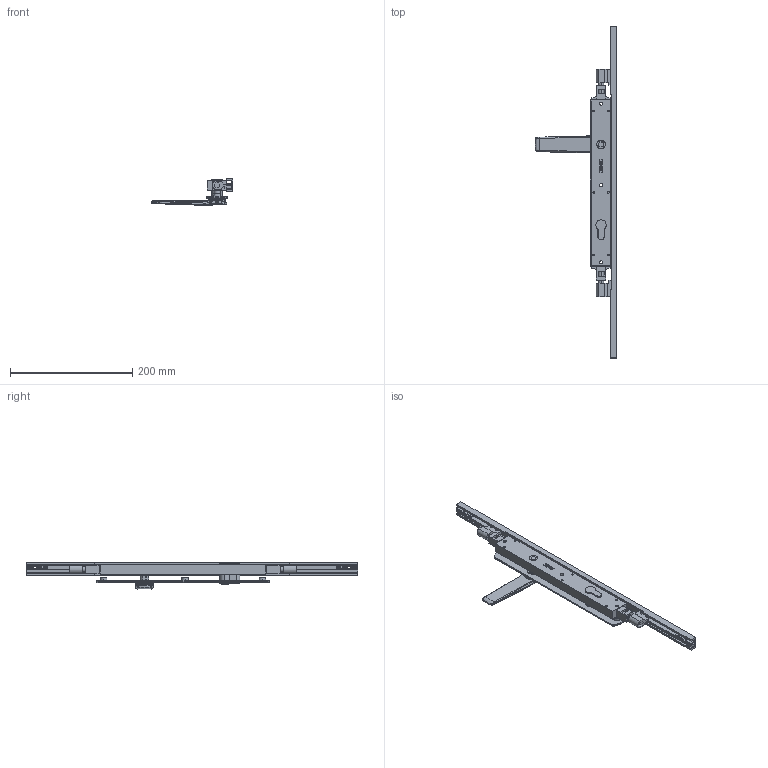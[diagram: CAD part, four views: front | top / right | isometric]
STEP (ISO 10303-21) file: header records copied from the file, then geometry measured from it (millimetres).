
FILE_DESCRIPTION (( 'STEP AP214' ), '1' );
FILE_NAME ('TPL-W-APC-610-U 28Oct2024.STEP', '2024-10-28T03:21:05', ( '' ), ( '' ), 'SwSTEP 2.0', 'SolidWorks 2023', '' );
FILE_SCHEMA (( 'AUTOMOTIVE_DESIGN' ));
Length unit declared in the file: millimetre
Products named in the file (19): TPL-W-APC-610-U 28Oct2024; Copy of TPGen2 handle keyed internal zinc - simplified^TPL-W-APC-110 18Oct2024_Right; Copy of TPLGen2 push rod - simplified^Copy of TPLGen2 lock body keyed assembly_TPL-W-APC-110 18Oct2024_Female thread M10; Copy of LKC-531 Lock twinpoint transmission rod wood system^TPL-W-APC-110 18Oct2024_Standard Range (588.7mm); Copy of LKC-512 Escutcheon plate keyed internal 285mm long zinc - simplified^Copy of TPGen2 handle keyed internal zinc - simplified_TPL-W-APC-110 18Oct2024; Bolt.step; Copy of LKC-584 Pivot body zinc - simplified^Copy of TPGen2 handle keyed internal zinc - simplified_TPL-W-APC-110 18Oct2024; Adapter D - simplfied^TPL-W-APC-110 18Oct2024; Adapter C - simplfied^TPL-W-APC-110 18Oct2024; Copy of TPLGen2 lock body keyed^Copy of TPLGen2 lock body keyed assembly_TPL-W-APC-110 18Oct2024; Copy of Copy of LKC-531 Lock twinpoint transmission rod wood system^TPL-W-APC-110 18Oct2024_Standard Range 2891.7mm; Copy of TPLGen2 lock body keyed assembly^TPL-W-APC-110 18Oct2024_Bolts retracted; Copy of COV-115-A Cover A suit TPLGen2 standard range AU with hinge holes^TPL-W-APC-110 18Oct2024_1335mm; Copy of TPL-022 Lock cylinder single 3 pin 23mm^TPL-W-APC-110 18Oct2024_Left; Copy of LKC-505 Swing handle zinc - simplified^Copy of TPGen2 handle keyed internal zinc - simplified_TPL-W-APC-110 18Oct2024; Copy of COV-115-C Cover C suit TPLGen2 standard range AU^TPL-W-APC-110 18Oct2024; Copy of LKC-585 Rotator body zinc^Copy of TPGen2 handle keyed internal zinc - simplified_TPL-W-APC-110 18Oct2024; Copy of LKC-586 Spindle square 8mm with M4 hole^Copy of TPGen2 handle keyed internal zinc - simplified_TPL-W-APC-110 18Oct2024_25mm; Copy of COV-115-B Cover B suit TPLGen2 standard range AU with hinge holes^TPL-W-APC-110 18Oct2024_2870mm
Assembly tree (16 placements, depth 3):
  TPL-W-APC-610-U 28Oct2024
    Copy of TPLGen2 lock body keyed assembly^TPL-W-APC-110 18Oct2024_Bolts retracted
      Copy of TPLGen2 lock body keyed^Copy of TPLGen2 lock body keyed assembly_TPL-W-APC-110 18Oct2024
      Copy of TPLGen2 push rod - simplified^Copy of TPLGen2 lock body keyed assembly_TPL-W-APC-110 18Oct2024_Female thread M10  x2
    Copy of TPGen2 handle keyed internal zinc - simplified^TPL-W-APC-110 18Oct2024_Right
      Copy of LKC-512 Escutcheon plate keyed internal 285mm long zinc - simplified^Copy of TPGen2 handle keyed internal zinc - simplified_TPL-W-APC-110 18Oct2024
      Copy of LKC-505 Swing handle zinc - simplified^Copy of TPGen2 handle keyed internal zinc - simplified_TPL-W-APC-110 18Oct2024
      Copy of LKC-585 Rotator body zinc^Copy of TPGen2 handle keyed internal zinc - simplified_TPL-W-APC-110 18Oct2024
      Copy of LKC-586 Spindle square 8mm with M4 hole^Copy of TPGen2 handle keyed internal zinc - simplified_TPL-W-APC-110 18Oct2024_25mm
      Copy of LKC-584 Pivot body zinc - simplified^Copy of TPGen2 handle keyed internal zinc - simplified_TPL-W-APC-110 18Oct2024
    Copy of TPL-022 Lock cylinder single 3 pin 23mm^TPL-W-APC-110 18Oct2024_Left
    Copy of LKC-531 Lock twinpoint transmission rod wood system^TPL-W-APC-110 18Oct2024_Standard Range (588.7mm)
    Copy of Copy of LKC-531 Lock twinpoint transmission rod wood system^TPL-W-APC-110 18Oct2024_Standard Range 2891.7mm
    Copy of COV-115-C Cover C suit TPLGen2 standard range AU^TPL-W-APC-110 18Oct2024
    Adapter C - simplfied^TPL-W-APC-110 18Oct2024
    Adapter D - simplfied^TPL-W-APC-110 18Oct2024
  Bolt.step
  Copy of COV-115-A Cover A suit TPLGen2 standard range AU with hinge holes^TPL-W-APC-110 18Oct2024_1335mm
  Copy of COV-115-B Cover B suit TPLGen2 standard range AU with hinge holes^TPL-W-APC-110 18Oct2024_2870mm
Bounding box: 134.12 x 544 x 42.86 mm (x, y, z)
Volume: 276520.6 mm3; surface area: 133706.5 mm2
Topology: 14 solids, 14 shells, 913 faces, 2269 edges, 1414 vertices
Faces by surface type: plane 321, bspline 241, cylinder 226, cone 71, torus 46, sphere 8
Entity records: 32842 total; most frequent: CARTESIAN_POINT 13008, ORIENTED_EDGE 4346, DIRECTION 3584, EDGE_CURVE 2173, VERTEX_POINT 1354, AXIS2_PLACEMENT_3D 1320, EDGE_LOOP 977, VECTOR 944
